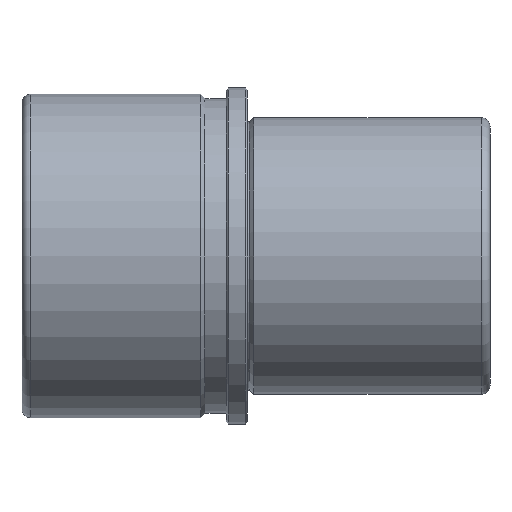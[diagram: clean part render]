
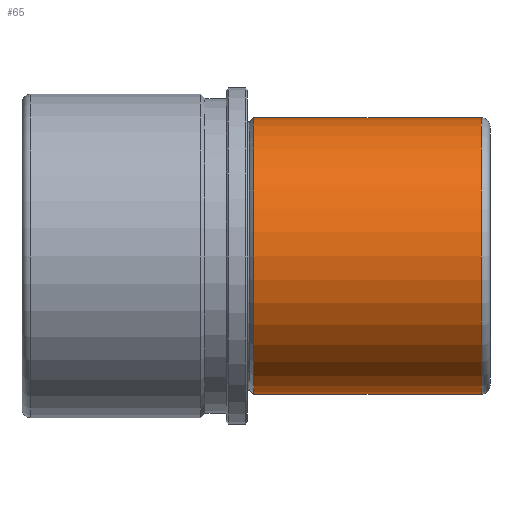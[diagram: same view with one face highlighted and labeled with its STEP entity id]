
A CAD part, front view. The second image highlights one B-rep face of the part: STEP entity #65.
In plain terms, the highlighted cylindrical face has radius 32.5 mm (diameter 65 mm), a full revolution.
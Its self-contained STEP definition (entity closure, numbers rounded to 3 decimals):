
#65 = ADVANCED_FACE( '', ( #145, #146 ), #147, .T. );
#145 = FACE_OUTER_BOUND( '', #238, .T. );
#146 = FACE_OUTER_BOUND( '', #239, .T. );
#147 = CYLINDRICAL_SURFACE( '', #240, 32.5 );
#238 = EDGE_LOOP( '', ( #345 ) );
#239 = EDGE_LOOP( '', ( #346 ) );
#240 = AXIS2_PLACEMENT_3D( '', #347, #348, #349 );
#345 = ORIENTED_EDGE( '', *, *, #431, .T. );
#346 = ORIENTED_EDGE( '', *, *, #433, .F. );
#347 = CARTESIAN_POINT( '', ( 57., 0., 0. ) );
#348 = DIRECTION( '', ( -1., 0., 0. ) );
#349 = DIRECTION( '', ( 0., 0., -1. ) );
#431 = EDGE_CURVE( '', #486, #486, #487, .T. );
#433 = EDGE_CURVE( '', #489, #489, #490, .T. );
#486 = VERTEX_POINT( '', #681 );
#487 = CIRCLE( '', #682, 32.5 );
#489 = VERTEX_POINT( '', #684 );
#490 = CIRCLE( '', #685, 32.5 );
#681 = CARTESIAN_POINT( '', ( 1.414, 0., -32.5 ) );
#682 = AXIS2_PLACEMENT_3D( '', #744, #745, #746 );
#684 = CARTESIAN_POINT( '', ( 55., 0., -32.5 ) );
#685 = AXIS2_PLACEMENT_3D( '', #747, #748, #749 );
#744 = CARTESIAN_POINT( '', ( 1.414, 0., 0. ) );
#745 = DIRECTION( '', ( 1., 0., 0. ) );
#746 = DIRECTION( '', ( 0., 0., -1. ) );
#747 = CARTESIAN_POINT( '', ( 55., 0., 0. ) );
#748 = DIRECTION( '', ( 1., 0., 0. ) );
#749 = DIRECTION( '', ( 0., 0., -1. ) );
